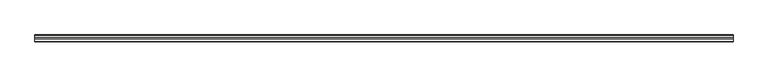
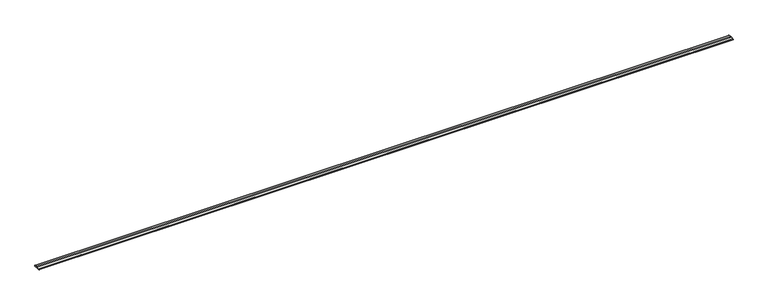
"""IFC4 building model written with IfcOpenShell, lengths in millimetres: slab geometry, ROSA GRES_121 CM : Pieza 121 CM_Tresor_Java_Anti-Slip."""

from ifc_helpers import new_model, si_unit, point, frame, frame_2d, origin, place, context, project, spatial, polyline, circle_curve, trimmed, segment, composite_curve, outline, extrude, source, transform, mapped, element, save


def slab_7d5740a9(model_context):
    return source(origin(), model_context, "Body", "SweptSolid", [
        extrude(outline(composite_curve([segment(polyline([(122.780004, -4.4288005), (125.2726851, -14.1746663)]), True, "CONTINUOUS"), segment(trimmed(circle_curve(frame_2d((120.5, -15.6651284)), 5.0), [point((125.2726851, -14.1746663))], [point((125.5, -15.6651284))], False, "CARTESIAN"), True, "CONTINUOUS"), segment(polyline([(125.5, -15.6651284), (125.5, -17.9933959)]), True, "CONTINUOUS"), segment(trimmed(circle_curve(frame_2d((120.4972512, -17.9933959)), 5.0027488), [point((125.5, -17.9933959))], [point((123.5971345, -21.92))], False, "CARTESIAN"), True, "CONTINUOUS"), segment(polyline([(123.5971345, -21.92), (76.1600446, -21.92)]), True, "CONTINUOUS"), segment(trimmed(circle_curve(frame_2d((76.1600446, -19.92)), 2.0), [point((76.1600446, -21.92))], [point((74.4339023, -20.9301647))], False, "CARTESIAN"), True, "CONTINUOUS"), segment(trimmed(circle_curve(frame_2d((70.1185466, -23.4555766)), 5.0), [point((74.4339023, -20.9301647))], [point((70.1185466, -18.4555766))], True, "CARTESIAN"), True, "CONTINUOUS"), segment(polyline([(70.1185466, -18.4555766), (57.8814534, -18.4555766)]), True, "CONTINUOUS"), segment(trimmed(circle_curve(frame_2d((57.8814534, -23.4555766)), 5.0), [point((57.8814534, -18.4555766))], [point((53.5660977, -20.9301647))], True, "CARTESIAN"), True, "CONTINUOUS"), segment(trimmed(circle_curve(frame_2d((51.8399554, -19.92)), 2.0), [point((53.5660977, -20.9301647))], [point((51.8399554, -21.92))], False, "CARTESIAN"), True, "CONTINUOUS"), segment(polyline([(51.8399554, -21.92), (4.4028655, -21.92)]), True, "CONTINUOUS"), segment(trimmed(circle_curve(frame_2d((7.5027488, -17.9933959)), 5.0027488), [point((4.4028655, -21.92))], [point((2.5, -17.9933959))], False, "CARTESIAN"), True, "CONTINUOUS"), segment(polyline([(2.5, -17.9933959), (2.5, -15.6651284)]), True, "CONTINUOUS"), segment(trimmed(circle_curve(frame_2d((7.5, -15.6651284)), 5.0), [point((2.5, -15.6651284))], [point((2.7273149, -14.1746663))], False, "CARTESIAN"), True, "CONTINUOUS"), segment(polyline([(2.7273149, -14.1746663), (5.219996, -4.4288005)]), True, "CONTINUOUS"), segment(trimmed(circle_curve(frame_2d((9.9926811, -5.9192626)), 5.0), [point((5.219996, -4.4288005))], [point((9.9075888, -0.9199867))], False, "CARTESIAN"), True, "CONTINUOUS"), segment(polyline([(9.9075888, -0.9199867), (46.9815344, -0.2889537)]), True, "CONTINUOUS"), segment(trimmed(circle_curve(frame_2d((64.0, -1000.1441291)), 1000.0), [point((46.9815344, -0.2889537))], [point((81.0184656, -0.2889537))], False, "CARTESIAN"), True, "CONTINUOUS"), segment(polyline([(81.0184656, -0.2889537), (118.0924112, -0.9199867)]), True, "CONTINUOUS"), segment(trimmed(circle_curve(frame_2d((118.0073189, -5.9192626)), 5.0), [point((118.0924112, -0.9199867))], [point((122.780004, -4.4288005))], False, "CARTESIAN"), True, "CONTINUOUS")], self_intersect=False)), frame((0.0, 0.0, 0.0), z_axis=(1.0, 0.0, 0.0), x_axis=(0.0, 1.0, 0.0)), (0.0, 0.0, 1.0), 12299.999999),
    ])


if __name__ == "__main__":
    model = new_model("IFC4")
    model_context = context("Model", 3, world=origin())
    ifc_project = project(units=[si_unit("LENGTHUNIT", "METRE", prefix="MILLI")], contexts=[model_context])
    site = spatial("IfcSite", under=ifc_project)
    building = spatial("IfcBuilding", under=site)
    placement = place(None, origin())
    slab_shape = slab_7d5740a9(model_context)
    element("IfcSlab", 1, ObjectType="ROSA GRES_121 CM : Pieza 121 CM_Tresor_Java_Anti-Slip", at=placement, inside=building, context=model_context, shape_type="MappedRepresentation", body=[
        mapped(slab_shape, transform((0.0, 0.0, 0.0), x_axis=(1.0, 0.0, 0.0), y_axis=(0.0, 1.0, 0.0), z_axis=(0.0, 0.0, 1.0))),
    ])
    save(model, "model.ifc")
